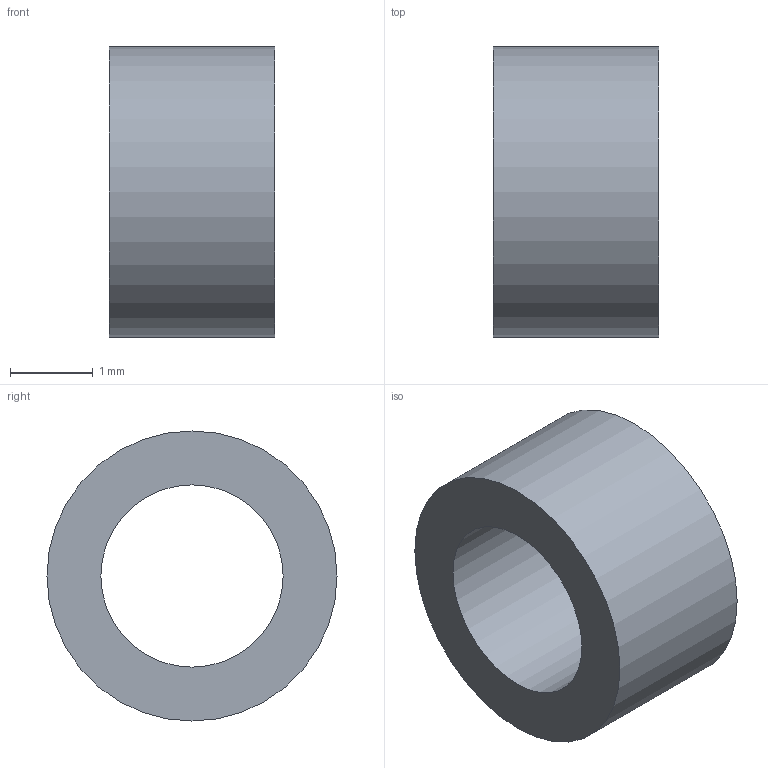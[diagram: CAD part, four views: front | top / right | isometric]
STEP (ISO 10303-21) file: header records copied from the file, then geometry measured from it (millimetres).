
FILE_DESCRIPTION(/* description */ ('STEP AP242 Edition 2','CAx-IF Rec.Pracs.---Representation and Presentation of Product Manufacturing Information (PMI)---4.0---2014-10-13','CAx-IF Rec.Pracs.---3D Tessellated Geometry---0.4---2014-09-14','2;1','CAx-IF Rec.Pracs.---User Defined Attributes---1.5---2016-08-15'),/* implementation_level */ '2;1');
FILE_NAME(/* name */ 'Part Studio 1 - spring_pin_connector_l',/* time_stamp */ '2026-04-19T16:25:01Z',/* author */ (''),/* organization */ (''),/* preprocessor_version */ 'ST-DEVELOPER v20',/* originating_system */ 'ONSHAPE BY PTC INC, 1.213',/* authorisation */ ' ');
FILE_SCHEMA (('AP242_MANAGED_MODEL_BASED_3D_ENGINEERING_MIM_LF { 1 0 10303 442 3 1 4 }'));
Length unit declared in the file: metre
Products named in the file (1): spring_pin_connector_l
Bounding box: 2 x 3.5 x 3.5 mm (x, y, z)
Volume: 11.6 mm3; surface area: 47.5 mm2
Topology: 1 solids, 1 shells, 4 faces, 6 edges, 4 vertices
Faces by surface type: cylinder 2, plane 2
Full cylindrical faces by diameter (mm): 2.2 x1, 3.5 x1
Entity records: 110 total; most frequent: DIRECTION 18, CARTESIAN_POINT 13, AXIS2_PLACEMENT_3D 9, ORIENTED_EDGE 8, EDGE_LOOP 8, FACE_BOUND 8, EDGE_CURVE 4, VERTEX_POINT 4
